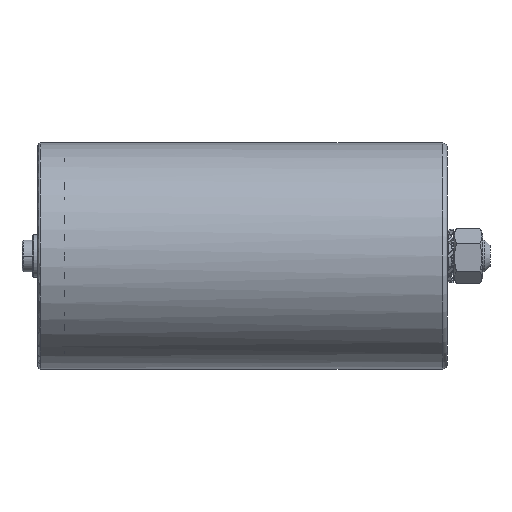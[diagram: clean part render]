
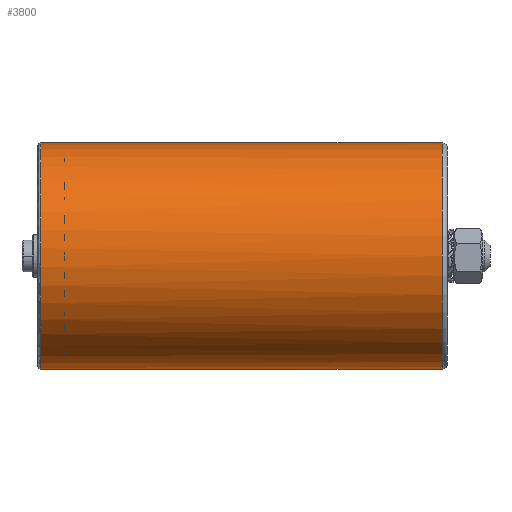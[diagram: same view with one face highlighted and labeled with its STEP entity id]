
A CAD part, left-side view. The second image highlights one B-rep face of the part: STEP entity #3800.
In plain terms, the highlighted cylindrical face has radius 42.5 mm (diameter 85 mm), a partial arc.
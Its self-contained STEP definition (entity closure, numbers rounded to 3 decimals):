
#30 = CARTESIAN_POINT ( 'NONE',  ( 0., 0., -42.5 ) ) ;
#120 = ORIENTED_EDGE ( 'NONE', *, *, #5191, .F. ) ;
#417 = VERTEX_POINT ( 'NONE', #1199 ) ;
#680 = DIRECTION ( 'NONE',  ( 0., -1., 0. ) ) ;
#995 = CIRCLE ( 'NONE', #9317, 42.5 ) ;
#1030 = CIRCLE ( 'NONE', #2300, 42.5 ) ;
#1038 = ORIENTED_EDGE ( 'NONE', *, *, #9403, .T. ) ;
#1199 = CARTESIAN_POINT ( 'NONE',  ( 0., 153., -42.5 ) ) ;
#1330 = DIRECTION ( 'NONE',  ( 0., -1., 0. ) ) ;
#1417 = DIRECTION ( 'NONE',  ( 0., 0., -1. ) ) ;
#1489 = CARTESIAN_POINT ( 'NONE',  ( 0., 0., 42.5 ) ) ;
#2148 = CARTESIAN_POINT ( 'NONE',  ( 0., 0., 0. ) ) ;
#2300 = AXIS2_PLACEMENT_3D ( 'NONE', #8315, #3236, #5444 ) ;
#2481 = CARTESIAN_POINT ( 'NONE',  ( 0., 153., 0. ) ) ;
#2804 = LINE ( 'NONE', #1489, #8404 ) ;
#2979 = DIRECTION ( 'NONE',  ( 0., 1., 0. ) ) ;
#3014 = DIRECTION ( 'NONE',  ( 0., -1., 0. ) ) ;
#3167 = DIRECTION ( 'NONE',  ( 0.596, 0., 0.803 ) ) ;
#3236 = DIRECTION ( 'NONE',  ( 0., -1., 0. ) ) ;
#3288 = CARTESIAN_POINT ( 'NONE',  ( 0., 153., 42.5 ) ) ;
#3800 = ADVANCED_FACE ( 'NONE', ( #9508 ), #6617, .T. ) ;
#3854 = VERTEX_POINT ( 'NONE', #5828 ) ;
#3872 = CARTESIAN_POINT ( 'NONE',  ( -25.343, 153., -34.117 ) ) ;
#4498 = CARTESIAN_POINT ( 'NONE',  ( 0., 2., 0. ) ) ;
#4837 = VECTOR ( 'NONE', #3014, 1000. ) ;
#4932 = CARTESIAN_POINT ( 'NONE',  ( 0., 2., -42.5 ) ) ;
#5015 = AXIS2_PLACEMENT_3D ( 'NONE', #2148, #680, #1417 ) ;
#5160 = CIRCLE ( 'NONE', #5942, 42.5 ) ;
#5191 = EDGE_CURVE ( 'NONE', #5351, #3854, #2804, .T. ) ;
#5236 = DIRECTION ( 'NONE',  ( 0., 0., -1. ) ) ;
#5253 = EDGE_CURVE ( 'NONE', #5351, #8272, #1030, .T. ) ;
#5351 = VERTEX_POINT ( 'NONE', #3288 ) ;
#5444 = DIRECTION ( 'NONE',  ( 0.596, 0., 0.803 ) ) ;
#5828 = CARTESIAN_POINT ( 'NONE',  ( 0., 2., 42.5 ) ) ;
#5942 = AXIS2_PLACEMENT_3D ( 'NONE', #4498, #2979, #5236 ) ;
#6617 = CYLINDRICAL_SURFACE ( 'NONE', #5015, 42.5 ) ;
#7192 = EDGE_LOOP ( 'NONE', ( #120, #8742, #9327, #1038, #8640 ) ) ;
#7502 = LINE ( 'NONE', #30, #4837 ) ;
#7536 = VERTEX_POINT ( 'NONE', #4932 ) ;
#7651 = DIRECTION ( 'NONE',  ( 0., -1., 0. ) ) ;
#7688 = EDGE_CURVE ( 'NONE', #8272, #417, #995, .T. ) ;
#8272 = VERTEX_POINT ( 'NONE', #3872 ) ;
#8315 = CARTESIAN_POINT ( 'NONE',  ( 0., 153., 0. ) ) ;
#8404 = VECTOR ( 'NONE', #1330, 1000. ) ;
#8640 = ORIENTED_EDGE ( 'NONE', *, *, #9086, .T. ) ;
#8742 = ORIENTED_EDGE ( 'NONE', *, *, #5253, .T. ) ;
#9086 = EDGE_CURVE ( 'NONE', #7536, #3854, #5160, .T. ) ;
#9317 = AXIS2_PLACEMENT_3D ( 'NONE', #2481, #7651, #3167 ) ;
#9327 = ORIENTED_EDGE ( 'NONE', *, *, #7688, .T. ) ;
#9403 = EDGE_CURVE ( 'NONE', #417, #7536, #7502, .T. ) ;
#9508 = FACE_OUTER_BOUND ( 'NONE', #7192, .T. ) ;
